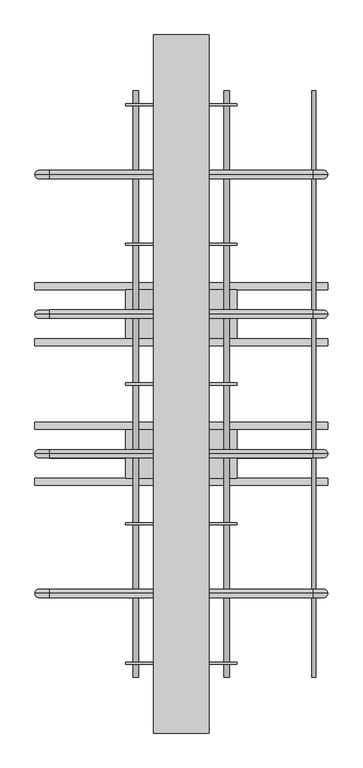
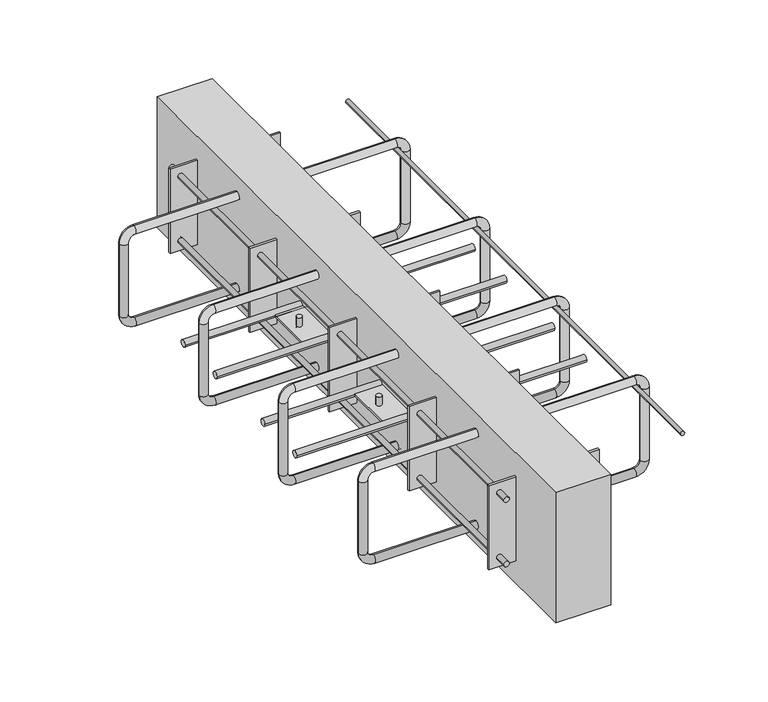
"""IFC4 building model written with IfcOpenShell, lengths in millimetres: fastener geometry, ACINOXplus_Typenreihe_Ux-Ox : OD+ S2."""

from ifc_helpers import new_model, si_unit, point, frame, frame_2d, origin, place, context, project, spatial, polyline, circle_curve, ellipse_curve, trimmed, segment, composite_curve, outline, extrude, source, transform, mapped, element, save
from ifc_brep_helpers import cylinder_surface, revolved_surface, advanced_brep


def fastener_fe60d42a(model_context):
    return source(origin(), model_context, "Body", "SolidModel", [
        advanced_brep(
        [(189.0, 100.0, -35.5), (189.0, 100.0, -23.5), (-189.0, 100.0, -23.5), (-189.0, 100.0, -35.5), (-198.0, 100.0, -44.5), (-210.0, 100.0, -44.5), (-210.0, 100.0, -155.5), (-198.0, 100.0, -155.5), (-189.0, 100.0, -164.5), (-189.0, 100.0, -176.5), (189.0, 100.0, -176.5), (189.0, 100.0, -164.5), (198.0, 100.0, -155.5), (210.0, 100.0, -155.5), (210.0, 100.0, -44.5), (198.0, 100.0, -44.5)],
        [
            (0, 1, circle_curve(frame((189.0, 100.0, -29.5), z_axis=(-1.0, 0.0, 0.0), x_axis=(0.0, 0.0, -1.0)), 6.0)),
            (1, 2),
            (2, 3, circle_curve(frame((-189.0, 100.0, -29.5), z_axis=(1.0, 0.0, 0.0), x_axis=(0.0, 0.0, -1.0)), 6.0)),
            (3, 0),
            (1, 0, circle_curve(frame((189.0, 100.0, -29.5), z_axis=(-1.0, 0.0, 0.0), x_axis=(0.0, 0.0, -1.0)), 6.0)),
            (3, 2, circle_curve(frame((-189.0, 100.0, -29.5), z_axis=(1.0, 0.0, 0.0), x_axis=(0.0, 0.0, -1.0)), 6.0)),
            (4, 3, circle_curve(frame((-189.0, 100.0, -44.5), z_axis=(0.0, 1.0, 0.0), x_axis=(0.0, 0.0, 1.0)), 9.0)),
            (2, 5, circle_curve(frame((-189.0, 100.0, -44.5), z_axis=(0.0, -1.0, 0.0), x_axis=(0.0, 0.0, 1.0)), 21.0)),
            (5, 4, circle_curve(frame((-204.0, 100.0, -44.5), z_axis=(0.0, 0.0, 1.0), x_axis=(1.0, 0.0, 0.0)), 6.0)),
            (4, 5, circle_curve(frame((-204.0, 100.0, -44.5), z_axis=(0.0, 0.0, 1.0), x_axis=(1.0, 0.0, 0.0)), 6.0)),
            (5, 6),
            (6, 7, circle_curve(frame((-204.0, 100.0, -155.5), z_axis=(0.0, 0.0, 1.0), x_axis=(1.0, 0.0, 0.0)), 6.0)),
            (7, 4),
            (7, 6, circle_curve(frame((-204.0, 100.0, -155.5), z_axis=(0.0, 0.0, 1.0), x_axis=(1.0, 0.0, 0.0)), 6.0)),
            (8, 7, circle_curve(frame((-189.0, 100.0, -155.5), z_axis=(0.0, 1.0, 0.0), x_axis=(-1.0, 0.0, 0.0)), 9.0)),
            (6, 9, circle_curve(frame((-189.0, 100.0, -155.5), z_axis=(0.0, -1.0, 0.0), x_axis=(-1.0, 0.0, 0.0)), 21.0)),
            (9, 8, circle_curve(frame((-189.0, 100.0, -170.5), z_axis=(-1.0, 0.0, 0.0), x_axis=(0.0, 0.0, 1.0)), 6.0)),
            (8, 9, circle_curve(frame((-189.0, 100.0, -170.5), z_axis=(-1.0, 0.0, 0.0), x_axis=(0.0, 0.0, 1.0)), 6.0)),
            (9, 10),
            (10, 11, circle_curve(frame((189.0, 100.0, -170.5), z_axis=(-1.0, 0.0, 0.0), x_axis=(0.0, 0.0, 1.0)), 6.0)),
            (11, 8),
            (11, 10, circle_curve(frame((189.0, 100.0, -170.5), z_axis=(-1.0, 0.0, 0.0), x_axis=(0.0, 0.0, 1.0)), 6.0)),
            (12, 11, circle_curve(frame((189.0, 100.0, -155.5), z_axis=(0.0, 1.0, 0.0), x_axis=(0.0, 0.0, -1.0)), 9.0)),
            (10, 13, circle_curve(frame((189.0, 100.0, -155.5), z_axis=(0.0, -1.0, 0.0), x_axis=(0.0, 0.0, -1.0)), 21.0)),
            (13, 12, circle_curve(frame((204.0, 100.0, -155.5), z_axis=(0.0, 0.0, -1.0), x_axis=(-1.0, 0.0, 0.0)), 6.0)),
            (12, 13, circle_curve(frame((204.0, 100.0, -155.5), z_axis=(0.0, 0.0, -1.0), x_axis=(-1.0, 0.0, 0.0)), 6.0)),
            (13, 14),
            (14, 15, circle_curve(frame((204.0, 100.0, -44.5), z_axis=(0.0, 0.0, -1.0), x_axis=(-1.0, 0.0, 0.0)), 6.0)),
            (15, 12),
            (15, 14, circle_curve(frame((204.0, 100.0, -44.5), z_axis=(0.0, 0.0, -1.0), x_axis=(-1.0, 0.0, 0.0)), 6.0)),
            (0, 15, circle_curve(frame((189.0, 100.0, -44.5), z_axis=(0.0, 1.0, 0.0), x_axis=(1.0, 0.0, 0.0)), 9.0)),
            (14, 1, circle_curve(frame((189.0, 100.0, -44.5), z_axis=(0.0, -1.0, 0.0), x_axis=(1.0, 0.0, 0.0)), 21.0)),
        ],
        [
            cylinder_surface(frame((189.0, 100.0, -29.5), z_axis=(1.0, 0.0, 0.0), x_axis=(0.0, 0.0, -1.0)), 6.0),
            revolved_surface(trimmed(ellipse_curve(frame((-189.0, 100.0, -29.5), z_axis=(1.0, 0.0, 0.0), x_axis=(0.0, 0.0, -1.0)), 6.0, 6.0), [point((-189.0, 100.0, -23.5))], [point((-189.0, 100.0, -35.5))], True, "CARTESIAN"), (-189.0, 100.0, -44.5), (0.0, -1.0, 0.0)),
            revolved_surface(trimmed(ellipse_curve(frame((-189.0, 100.0, -29.5), z_axis=(1.0, 0.0, 0.0), x_axis=(0.0, 0.0, -1.0)), 6.0, 6.0), [point((-189.0, 100.0, -35.5))], [point((-189.0, 100.0, -23.5))], True, "CARTESIAN"), (-189.0, 100.0, -44.5), (0.0, -1.0, 0.0)),
            cylinder_surface(frame((-204.0, 100.0, -44.5), z_axis=(0.0, 0.0, 1.0), x_axis=(1.0, 0.0, 0.0)), 6.0),
            revolved_surface(trimmed(ellipse_curve(frame((-204.0, 100.0, -155.5), z_axis=(0.0, 0.0, 1.0), x_axis=(1.0, 0.0, 0.0)), 6.0, 6.0), [point((-210.0, 100.0, -155.5))], [point((-198.0, 100.0, -155.5))], True, "CARTESIAN"), (-189.0, 100.0, -155.5), (0.0, -1.0, 0.0)),
            revolved_surface(trimmed(ellipse_curve(frame((-204.0, 100.0, -155.5), z_axis=(0.0, 0.0, 1.0), x_axis=(1.0, 0.0, 0.0)), 6.0, 6.0), [point((-198.0, 100.0, -155.5))], [point((-210.0, 100.0, -155.5))], True, "CARTESIAN"), (-189.0, 100.0, -155.5), (0.0, -1.0, 0.0)),
            cylinder_surface(frame((-189.0, 100.0, -170.5), z_axis=(-1.0, 0.0, 0.0), x_axis=(0.0, 0.0, 1.0)), 6.0),
            revolved_surface(trimmed(ellipse_curve(frame((189.0, 100.0, -170.5), z_axis=(-1.0, 0.0, 0.0), x_axis=(0.0, 0.0, 1.0)), 6.0, 6.0), [point((189.0, 100.0, -176.5))], [point((189.0, 100.0, -164.5))], True, "CARTESIAN"), (189.0, 100.0, -155.5), (0.0, -1.0, 0.0)),
            revolved_surface(trimmed(ellipse_curve(frame((189.0, 100.0, -170.5), z_axis=(-1.0, 0.0, 0.0), x_axis=(0.0, 0.0, 1.0)), 6.0, 6.0), [point((189.0, 100.0, -164.5))], [point((189.0, 100.0, -176.5))], True, "CARTESIAN"), (189.0, 100.0, -155.5), (0.0, -1.0, 0.0)),
            cylinder_surface(frame((204.0, 100.0, -155.5), z_axis=(0.0, 0.0, -1.0), x_axis=(-1.0, 0.0, 0.0)), 6.0),
            revolved_surface(trimmed(ellipse_curve(frame((204.0, 100.0, -44.5), z_axis=(0.0, 0.0, -1.0), x_axis=(-1.0, 0.0, 0.0)), 6.0, 6.0), [point((210.0, 100.0, -44.5))], [point((198.0, 100.0, -44.5))], True, "CARTESIAN"), (189.0, 100.0, -44.5), (0.0, -1.0, 0.0)),
            revolved_surface(trimmed(ellipse_curve(frame((204.0, 100.0, -44.5), z_axis=(0.0, 0.0, -1.0), x_axis=(-1.0, 0.0, 0.0)), 6.0, 6.0), [point((198.0, 100.0, -44.5))], [point((210.0, 100.0, -44.5))], True, "CARTESIAN"), (189.0, 100.0, -44.5), (0.0, -1.0, 0.0)),
        ],
        [
            (0, [[1, 2, 3, 4]]),
            (0, [[5, -4, 6, -2]]),
            (1, [[7, -3, 8, 9]]),
            (2, [[-8, -6, -7, 10]]),
            (3, [[-9, 11, 12, 13]]),
            (3, [[-10, -13, 14, -11]]),
            (4, [[15, -12, 16, 17]]),
            (5, [[-16, -14, -15, 18]]),
            (6, [[-17, 19, 20, 21]]),
            (6, [[-18, -21, 22, -19]]),
            (7, [[23, -20, 24, 25]]),
            (8, [[-24, -22, -23, 26]]),
            (9, [[-25, 27, 28, 29]]),
            (9, [[-26, -29, 30, -27]]),
            (10, [[31, -28, 32, -1]]),
            (11, [[-32, -30, -31, -5]]),
        ],
    ),
        advanced_brep(
        [(189.0, -100.0, -35.5), (189.0, -100.0, -23.5), (-189.0, -100.0, -23.5), (-189.0, -100.0, -35.5), (-198.0, -100.0, -44.5), (-210.0, -100.0, -44.5), (-210.0, -100.0, -155.5), (-198.0, -100.0, -155.5), (-189.0, -100.0, -164.5), (-189.0, -100.0, -176.5), (189.0, -100.0, -176.5), (189.0, -100.0, -164.5), (198.0, -100.0, -155.5), (210.0, -100.0, -155.5), (210.0, -100.0, -44.5), (198.0, -100.0, -44.5)],
        [
            (0, 1, circle_curve(frame((189.0, -100.0, -29.5), z_axis=(-1.0, 0.0, 0.0), x_axis=(0.0, 0.0, -1.0)), 6.0)),
            (1, 2),
            (2, 3, circle_curve(frame((-189.0, -100.0, -29.5), z_axis=(1.0, 0.0, 0.0), x_axis=(0.0, 0.0, -1.0)), 6.0)),
            (3, 0),
            (1, 0, circle_curve(frame((189.0, -100.0, -29.5), z_axis=(-1.0, 0.0, 0.0), x_axis=(0.0, 0.0, -1.0)), 6.0)),
            (3, 2, circle_curve(frame((-189.0, -100.0, -29.5), z_axis=(1.0, 0.0, 0.0), x_axis=(0.0, 0.0, -1.0)), 6.0)),
            (4, 3, circle_curve(frame((-189.0, -100.0, -44.5), z_axis=(0.0, 1.0, 0.0), x_axis=(0.0, 0.0, 1.0)), 9.0)),
            (2, 5, circle_curve(frame((-189.0, -100.0, -44.5), z_axis=(0.0, -1.0, 0.0), x_axis=(0.0, 0.0, 1.0)), 21.0)),
            (5, 4, circle_curve(frame((-204.0, -100.0, -44.5), z_axis=(0.0, 0.0, 1.0), x_axis=(1.0, 0.0, 0.0)), 6.0)),
            (4, 5, circle_curve(frame((-204.0, -100.0, -44.5), z_axis=(0.0, 0.0, 1.0), x_axis=(1.0, 0.0, 0.0)), 6.0)),
            (5, 6),
            (6, 7, circle_curve(frame((-204.0, -100.0, -155.5), z_axis=(0.0, 0.0, 1.0), x_axis=(1.0, 0.0, 0.0)), 6.0)),
            (7, 4),
            (7, 6, circle_curve(frame((-204.0, -100.0, -155.5), z_axis=(0.0, 0.0, 1.0), x_axis=(1.0, 0.0, 0.0)), 6.0)),
            (8, 7, circle_curve(frame((-189.0, -100.0, -155.5), z_axis=(0.0, 1.0, 0.0), x_axis=(-1.0, 0.0, 0.0)), 9.0)),
            (6, 9, circle_curve(frame((-189.0, -100.0, -155.5), z_axis=(0.0, -1.0, 0.0), x_axis=(-1.0, 0.0, 0.0)), 21.0)),
            (9, 8, circle_curve(frame((-189.0, -100.0, -170.5), z_axis=(-1.0, 0.0, 0.0), x_axis=(0.0, 0.0, 1.0)), 6.0)),
            (8, 9, circle_curve(frame((-189.0, -100.0, -170.5), z_axis=(-1.0, 0.0, 0.0), x_axis=(0.0, 0.0, 1.0)), 6.0)),
            (9, 10),
            (10, 11, circle_curve(frame((189.0, -100.0, -170.5), z_axis=(-1.0, 0.0, 0.0), x_axis=(0.0, 0.0, 1.0)), 6.0)),
            (11, 8),
            (11, 10, circle_curve(frame((189.0, -100.0, -170.5), z_axis=(-1.0, 0.0, 0.0), x_axis=(0.0, 0.0, 1.0)), 6.0)),
            (12, 11, circle_curve(frame((189.0, -100.0, -155.5), z_axis=(0.0, 1.0, 0.0), x_axis=(0.0, 0.0, -1.0)), 9.0)),
            (10, 13, circle_curve(frame((189.0, -100.0, -155.5), z_axis=(0.0, -1.0, 0.0), x_axis=(0.0, 0.0, -1.0)), 21.0)),
            (13, 12, circle_curve(frame((204.0, -100.0, -155.5), z_axis=(0.0, 0.0, -1.0), x_axis=(-1.0, 0.0, 0.0)), 6.0)),
            (12, 13, circle_curve(frame((204.0, -100.0, -155.5), z_axis=(0.0, 0.0, -1.0), x_axis=(-1.0, 0.0, 0.0)), 6.0)),
            (13, 14),
            (14, 15, circle_curve(frame((204.0, -100.0, -44.5), z_axis=(0.0, 0.0, -1.0), x_axis=(-1.0, 0.0, 0.0)), 6.0)),
            (15, 12),
            (15, 14, circle_curve(frame((204.0, -100.0, -44.5), z_axis=(0.0, 0.0, -1.0), x_axis=(-1.0, 0.0, 0.0)), 6.0)),
            (0, 15, circle_curve(frame((189.0, -100.0, -44.5), z_axis=(0.0, 1.0, 0.0), x_axis=(1.0, 0.0, 0.0)), 9.0)),
            (14, 1, circle_curve(frame((189.0, -100.0, -44.5), z_axis=(0.0, -1.0, 0.0), x_axis=(1.0, 0.0, 0.0)), 21.0)),
        ],
        [
            cylinder_surface(frame((189.0, -100.0, -29.5), z_axis=(1.0, 0.0, 0.0), x_axis=(0.0, 0.0, -1.0)), 6.0),
            revolved_surface(trimmed(ellipse_curve(frame((-189.0, -100.0, -29.5), z_axis=(1.0, 0.0, 0.0), x_axis=(0.0, 0.0, -1.0)), 6.0, 6.0), [point((-189.0, -100.0, -23.5))], [point((-189.0, -100.0, -35.5))], True, "CARTESIAN"), (-189.0, -100.0, -44.5), (0.0, -1.0, 0.0)),
            revolved_surface(trimmed(ellipse_curve(frame((-189.0, -100.0, -29.5), z_axis=(1.0, 0.0, 0.0), x_axis=(0.0, 0.0, -1.0)), 6.0, 6.0), [point((-189.0, -100.0, -35.5))], [point((-189.0, -100.0, -23.5))], True, "CARTESIAN"), (-189.0, -100.0, -44.5), (0.0, -1.0, 0.0)),
            cylinder_surface(frame((-204.0, -100.0, -44.5), z_axis=(0.0, 0.0, 1.0), x_axis=(1.0, 0.0, 0.0)), 6.0),
            revolved_surface(trimmed(ellipse_curve(frame((-204.0, -100.0, -155.5), z_axis=(0.0, 0.0, 1.0), x_axis=(1.0, 0.0, 0.0)), 6.0, 6.0), [point((-210.0, -100.0, -155.5))], [point((-198.0, -100.0, -155.5))], True, "CARTESIAN"), (-189.0, -100.0, -155.5), (0.0, -1.0, 0.0)),
            revolved_surface(trimmed(ellipse_curve(frame((-204.0, -100.0, -155.5), z_axis=(0.0, 0.0, 1.0), x_axis=(1.0, 0.0, 0.0)), 6.0, 6.0), [point((-198.0, -100.0, -155.5))], [point((-210.0, -100.0, -155.5))], True, "CARTESIAN"), (-189.0, -100.0, -155.5), (0.0, -1.0, 0.0)),
            cylinder_surface(frame((-189.0, -100.0, -170.5), z_axis=(-1.0, 0.0, 0.0), x_axis=(0.0, 0.0, 1.0)), 6.0),
            revolved_surface(trimmed(ellipse_curve(frame((189.0, -100.0, -170.5), z_axis=(-1.0, 0.0, 0.0), x_axis=(0.0, 0.0, 1.0)), 6.0, 6.0), [point((189.0, -100.0, -176.5))], [point((189.0, -100.0, -164.5))], True, "CARTESIAN"), (189.0, -100.0, -155.5), (0.0, -1.0, 0.0)),
            revolved_surface(trimmed(ellipse_curve(frame((189.0, -100.0, -170.5), z_axis=(-1.0, 0.0, 0.0), x_axis=(0.0, 0.0, 1.0)), 6.0, 6.0), [point((189.0, -100.0, -164.5))], [point((189.0, -100.0, -176.5))], True, "CARTESIAN"), (189.0, -100.0, -155.5), (0.0, -1.0, 0.0)),
            cylinder_surface(frame((204.0, -100.0, -155.5), z_axis=(0.0, 0.0, -1.0), x_axis=(-1.0, 0.0, 0.0)), 6.0),
            revolved_surface(trimmed(ellipse_curve(frame((204.0, -100.0, -44.5), z_axis=(0.0, 0.0, -1.0), x_axis=(-1.0, 0.0, 0.0)), 6.0, 6.0), [point((210.0, -100.0, -44.5))], [point((198.0, -100.0, -44.5))], True, "CARTESIAN"), (189.0, -100.0, -44.5), (0.0, -1.0, 0.0)),
            revolved_surface(trimmed(ellipse_curve(frame((204.0, -100.0, -44.5), z_axis=(0.0, 0.0, -1.0), x_axis=(-1.0, 0.0, 0.0)), 6.0, 6.0), [point((198.0, -100.0, -44.5))], [point((210.0, -100.0, -44.5))], True, "CARTESIAN"), (189.0, -100.0, -44.5), (0.0, -1.0, 0.0)),
        ],
        [
            (0, [[1, 2, 3, 4]]),
            (0, [[5, -4, 6, -2]]),
            (1, [[7, -3, 8, 9]]),
            (2, [[-8, -6, -7, 10]]),
            (3, [[-9, 11, 12, 13]]),
            (3, [[-10, -13, 14, -11]]),
            (4, [[15, -12, 16, 17]]),
            (5, [[-16, -14, -15, 18]]),
            (6, [[-17, 19, 20, 21]]),
            (6, [[-18, -21, 22, -19]]),
            (7, [[23, -20, 24, 25]]),
            (8, [[-24, -22, -23, 26]]),
            (9, [[-25, 27, 28, 29]]),
            (9, [[-26, -29, 30, -27]]),
            (10, [[31, -28, 32, -1]]),
            (11, [[-32, -30, -31, -5]]),
        ],
    ),
        advanced_brep(
        [(189.0, 300.0, -35.5), (189.0, 300.0, -23.5), (-189.0, 300.0, -23.5), (-189.0, 300.0, -35.5), (-198.0, 300.0, -44.5), (-210.0, 300.0, -44.5), (-210.0, 300.0, -155.5), (-198.0, 300.0, -155.5), (-189.0, 300.0, -164.5), (-189.0, 300.0, -176.5), (189.0, 300.0, -176.5), (189.0, 300.0, -164.5), (198.0, 300.0, -155.5), (210.0, 300.0, -155.5), (210.0, 300.0, -44.5), (198.0, 300.0, -44.5)],
        [
            (0, 1, circle_curve(frame((189.0, 300.0, -29.5), z_axis=(-1.0, 0.0, 0.0), x_axis=(0.0, 0.0, -1.0)), 6.0)),
            (1, 2),
            (2, 3, circle_curve(frame((-189.0, 300.0, -29.5), z_axis=(1.0, 0.0, 0.0), x_axis=(0.0, 0.0, -1.0)), 6.0)),
            (3, 0),
            (1, 0, circle_curve(frame((189.0, 300.0, -29.5), z_axis=(-1.0, 0.0, 0.0), x_axis=(0.0, 0.0, -1.0)), 6.0)),
            (3, 2, circle_curve(frame((-189.0, 300.0, -29.5), z_axis=(1.0, 0.0, 0.0), x_axis=(0.0, 0.0, -1.0)), 6.0)),
            (4, 3, circle_curve(frame((-189.0, 300.0, -44.5), z_axis=(0.0, 1.0, 0.0), x_axis=(0.0, 0.0, 1.0)), 9.0)),
            (2, 5, circle_curve(frame((-189.0, 300.0, -44.5), z_axis=(0.0, -1.0, 0.0), x_axis=(0.0, 0.0, 1.0)), 21.0)),
            (5, 4, circle_curve(frame((-204.0, 300.0, -44.5), z_axis=(0.0, 0.0, 1.0), x_axis=(1.0, 0.0, 0.0)), 6.0)),
            (4, 5, circle_curve(frame((-204.0, 300.0, -44.5), z_axis=(0.0, 0.0, 1.0), x_axis=(1.0, 0.0, 0.0)), 6.0)),
            (5, 6),
            (6, 7, circle_curve(frame((-204.0, 300.0, -155.5), z_axis=(0.0, 0.0, 1.0), x_axis=(1.0, 0.0, 0.0)), 6.0)),
            (7, 4),
            (7, 6, circle_curve(frame((-204.0, 300.0, -155.5), z_axis=(0.0, 0.0, 1.0), x_axis=(1.0, 0.0, 0.0)), 6.0)),
            (8, 7, circle_curve(frame((-189.0, 300.0, -155.5), z_axis=(0.0, 1.0, 0.0), x_axis=(-1.0, 0.0, 0.0)), 9.0)),
            (6, 9, circle_curve(frame((-189.0, 300.0, -155.5), z_axis=(0.0, -1.0, 0.0), x_axis=(-1.0, 0.0, 0.0)), 21.0)),
            (9, 8, circle_curve(frame((-189.0, 300.0, -170.5), z_axis=(-1.0, 0.0, 0.0), x_axis=(0.0, 0.0, 1.0)), 6.0)),
            (8, 9, circle_curve(frame((-189.0, 300.0, -170.5), z_axis=(-1.0, 0.0, 0.0), x_axis=(0.0, 0.0, 1.0)), 6.0)),
            (9, 10),
            (10, 11, circle_curve(frame((189.0, 300.0, -170.5), z_axis=(-1.0, 0.0, 0.0), x_axis=(0.0, 0.0, 1.0)), 6.0)),
            (11, 8),
            (11, 10, circle_curve(frame((189.0, 300.0, -170.5), z_axis=(-1.0, 0.0, 0.0), x_axis=(0.0, 0.0, 1.0)), 6.0)),
            (12, 11, circle_curve(frame((189.0, 300.0, -155.5), z_axis=(0.0, 1.0, 0.0), x_axis=(0.0, 0.0, -1.0)), 9.0)),
            (10, 13, circle_curve(frame((189.0, 300.0, -155.5), z_axis=(0.0, -1.0, 0.0), x_axis=(0.0, 0.0, -1.0)), 21.0)),
            (13, 12, circle_curve(frame((204.0, 300.0, -155.5), z_axis=(0.0, 0.0, -1.0), x_axis=(-1.0, 0.0, 0.0)), 6.0)),
            (12, 13, circle_curve(frame((204.0, 300.0, -155.5), z_axis=(0.0, 0.0, -1.0), x_axis=(-1.0, 0.0, 0.0)), 6.0)),
            (13, 14),
            (14, 15, circle_curve(frame((204.0, 300.0, -44.5), z_axis=(0.0, 0.0, -1.0), x_axis=(-1.0, 0.0, 0.0)), 6.0)),
            (15, 12),
            (15, 14, circle_curve(frame((204.0, 300.0, -44.5), z_axis=(0.0, 0.0, -1.0), x_axis=(-1.0, 0.0, 0.0)), 6.0)),
            (0, 15, circle_curve(frame((189.0, 300.0, -44.5), z_axis=(0.0, 1.0, 0.0), x_axis=(1.0, 0.0, 0.0)), 9.0)),
            (14, 1, circle_curve(frame((189.0, 300.0, -44.5), z_axis=(0.0, -1.0, 0.0), x_axis=(1.0, 0.0, 0.0)), 21.0)),
        ],
        [
            cylinder_surface(frame((189.0, 300.0, -29.5), z_axis=(1.0, 0.0, 0.0), x_axis=(0.0, 0.0, -1.0)), 6.0),
            revolved_surface(trimmed(ellipse_curve(frame((-189.0, 300.0, -29.5), z_axis=(1.0, 0.0, 0.0), x_axis=(0.0, 0.0, -1.0)), 6.0, 6.0), [point((-189.0, 300.0, -23.5))], [point((-189.0, 300.0, -35.5))], True, "CARTESIAN"), (-189.0, 300.0, -44.5), (0.0, -1.0, 0.0)),
            revolved_surface(trimmed(ellipse_curve(frame((-189.0, 300.0, -29.5), z_axis=(1.0, 0.0, 0.0), x_axis=(0.0, 0.0, -1.0)), 6.0, 6.0), [point((-189.0, 300.0, -35.5))], [point((-189.0, 300.0, -23.5))], True, "CARTESIAN"), (-189.0, 300.0, -44.5), (0.0, -1.0, 0.0)),
            cylinder_surface(frame((-204.0, 300.0, -44.5), z_axis=(0.0, 0.0, 1.0), x_axis=(1.0, 0.0, 0.0)), 6.0),
            revolved_surface(trimmed(ellipse_curve(frame((-204.0, 300.0, -155.5), z_axis=(0.0, 0.0, 1.0), x_axis=(1.0, 0.0, 0.0)), 6.0, 6.0), [point((-210.0, 300.0, -155.5))], [point((-198.0, 300.0, -155.5))], True, "CARTESIAN"), (-189.0, 300.0, -155.5), (0.0, -1.0, 0.0)),
            revolved_surface(trimmed(ellipse_curve(frame((-204.0, 300.0, -155.5), z_axis=(0.0, 0.0, 1.0), x_axis=(1.0, 0.0, 0.0)), 6.0, 6.0), [point((-198.0, 300.0, -155.5))], [point((-210.0, 300.0, -155.5))], True, "CARTESIAN"), (-189.0, 300.0, -155.5), (0.0, -1.0, 0.0)),
            cylinder_surface(frame((-189.0, 300.0, -170.5), z_axis=(-1.0, 0.0, 0.0), x_axis=(0.0, 0.0, 1.0)), 6.0),
            revolved_surface(trimmed(ellipse_curve(frame((189.0, 300.0, -170.5), z_axis=(-1.0, 0.0, 0.0), x_axis=(0.0, 0.0, 1.0)), 6.0, 6.0), [point((189.0, 300.0, -176.5))], [point((189.0, 300.0, -164.5))], True, "CARTESIAN"), (189.0, 300.0, -155.5), (0.0, -1.0, 0.0)),
            revolved_surface(trimmed(ellipse_curve(frame((189.0, 300.0, -170.5), z_axis=(-1.0, 0.0, 0.0), x_axis=(0.0, 0.0, 1.0)), 6.0, 6.0), [point((189.0, 300.0, -164.5))], [point((189.0, 300.0, -176.5))], True, "CARTESIAN"), (189.0, 300.0, -155.5), (0.0, -1.0, 0.0)),
            cylinder_surface(frame((204.0, 300.0, -155.5), z_axis=(0.0, 0.0, -1.0), x_axis=(-1.0, 0.0, 0.0)), 6.0),
            revolved_surface(trimmed(ellipse_curve(frame((204.0, 300.0, -44.5), z_axis=(0.0, 0.0, -1.0), x_axis=(-1.0, 0.0, 0.0)), 6.0, 6.0), [point((210.0, 300.0, -44.5))], [point((198.0, 300.0, -44.5))], True, "CARTESIAN"), (189.0, 300.0, -44.5), (0.0, -1.0, 0.0)),
            revolved_surface(trimmed(ellipse_curve(frame((204.0, 300.0, -44.5), z_axis=(0.0, 0.0, -1.0), x_axis=(-1.0, 0.0, 0.0)), 6.0, 6.0), [point((198.0, 300.0, -44.5))], [point((210.0, 300.0, -44.5))], True, "CARTESIAN"), (189.0, 300.0, -44.5), (0.0, -1.0, 0.0)),
        ],
        [
            (0, [[1, 2, 3, 4]]),
            (0, [[5, -4, 6, -2]]),
            (1, [[7, -3, 8, 9]]),
            (2, [[-8, -6, -7, 10]]),
            (3, [[-9, 11, 12, 13]]),
            (3, [[-10, -13, 14, -11]]),
            (4, [[15, -12, 16, 17]]),
            (5, [[-16, -14, -15, 18]]),
            (6, [[-17, 19, 20, 21]]),
            (6, [[-18, -21, 22, -19]]),
            (7, [[23, -20, 24, 25]]),
            (8, [[-24, -22, -23, 26]]),
            (9, [[-25, 27, 28, 29]]),
            (9, [[-26, -29, 30, -27]]),
            (10, [[31, -28, 32, -1]]),
            (11, [[-32, -30, -31, -5]]),
        ],
    ),
        advanced_brep(
        [(189.0, -300.0, -35.5), (189.0, -300.0, -23.5), (-189.0, -300.0, -23.5), (-189.0, -300.0, -35.5), (-198.0, -300.0, -44.5), (-210.0, -300.0, -44.5), (-210.0, -300.0, -155.5), (-198.0, -300.0, -155.5), (-189.0, -300.0, -164.5), (-189.0, -300.0, -176.5), (189.0, -300.0, -176.5), (189.0, -300.0, -164.5), (198.0, -300.0, -155.5), (210.0, -300.0, -155.5), (210.0, -300.0, -44.5), (198.0, -300.0, -44.5)],
        [
            (0, 1, circle_curve(frame((189.0, -300.0, -29.5), z_axis=(-1.0, 0.0, 0.0), x_axis=(0.0, 0.0, -1.0)), 6.0)),
            (1, 2),
            (2, 3, circle_curve(frame((-189.0, -300.0, -29.5), z_axis=(1.0, 0.0, 0.0), x_axis=(0.0, 0.0, -1.0)), 6.0)),
            (3, 0),
            (1, 0, circle_curve(frame((189.0, -300.0, -29.5), z_axis=(-1.0, 0.0, 0.0), x_axis=(0.0, 0.0, -1.0)), 6.0)),
            (3, 2, circle_curve(frame((-189.0, -300.0, -29.5), z_axis=(1.0, 0.0, 0.0), x_axis=(0.0, 0.0, -1.0)), 6.0)),
            (4, 3, circle_curve(frame((-189.0, -300.0, -44.5), z_axis=(0.0, 1.0, 0.0), x_axis=(0.0, 0.0, 1.0)), 9.0)),
            (2, 5, circle_curve(frame((-189.0, -300.0, -44.5), z_axis=(0.0, -1.0, 0.0), x_axis=(0.0, 0.0, 1.0)), 21.0)),
            (5, 4, circle_curve(frame((-204.0, -300.0, -44.5), z_axis=(0.0, 0.0, 1.0), x_axis=(1.0, 0.0, 0.0)), 6.0)),
            (4, 5, circle_curve(frame((-204.0, -300.0, -44.5), z_axis=(0.0, 0.0, 1.0), x_axis=(1.0, 0.0, 0.0)), 6.0)),
            (5, 6),
            (6, 7, circle_curve(frame((-204.0, -300.0, -155.5), z_axis=(0.0, 0.0, 1.0), x_axis=(1.0, 0.0, 0.0)), 6.0)),
            (7, 4),
            (7, 6, circle_curve(frame((-204.0, -300.0, -155.5), z_axis=(0.0, 0.0, 1.0), x_axis=(1.0, 0.0, 0.0)), 6.0)),
            (8, 7, circle_curve(frame((-189.0, -300.0, -155.5), z_axis=(0.0, 1.0, 0.0), x_axis=(-1.0, 0.0, 0.0)), 9.0)),
            (6, 9, circle_curve(frame((-189.0, -300.0, -155.5), z_axis=(0.0, -1.0, 0.0), x_axis=(-1.0, 0.0, 0.0)), 21.0)),
            (9, 8, circle_curve(frame((-189.0, -300.0, -170.5), z_axis=(-1.0, 0.0, 0.0), x_axis=(0.0, 0.0, 1.0)), 6.0)),
            (8, 9, circle_curve(frame((-189.0, -300.0, -170.5), z_axis=(-1.0, 0.0, 0.0), x_axis=(0.0, 0.0, 1.0)), 6.0)),
            (9, 10),
            (10, 11, circle_curve(frame((189.0, -300.0, -170.5), z_axis=(-1.0, 0.0, 0.0), x_axis=(0.0, 0.0, 1.0)), 6.0)),
            (11, 8),
            (11, 10, circle_curve(frame((189.0, -300.0, -170.5), z_axis=(-1.0, 0.0, 0.0), x_axis=(0.0, 0.0, 1.0)), 6.0)),
            (12, 11, circle_curve(frame((189.0, -300.0, -155.5), z_axis=(0.0, 1.0, 0.0), x_axis=(0.0, 0.0, -1.0)), 9.0)),
            (10, 13, circle_curve(frame((189.0, -300.0, -155.5), z_axis=(0.0, -1.0, 0.0), x_axis=(0.0, 0.0, -1.0)), 21.0)),
            (13, 12, circle_curve(frame((204.0, -300.0, -155.5), z_axis=(0.0, 0.0, -1.0), x_axis=(-1.0, 0.0, 0.0)), 6.0)),
            (12, 13, circle_curve(frame((204.0, -300.0, -155.5), z_axis=(0.0, 0.0, -1.0), x_axis=(-1.0, 0.0, 0.0)), 6.0)),
            (13, 14),
            (14, 15, circle_curve(frame((204.0, -300.0, -44.5), z_axis=(0.0, 0.0, -1.0), x_axis=(-1.0, 0.0, 0.0)), 6.0)),
            (15, 12),
            (15, 14, circle_curve(frame((204.0, -300.0, -44.5), z_axis=(0.0, 0.0, -1.0), x_axis=(-1.0, 0.0, 0.0)), 6.0)),
            (0, 15, circle_curve(frame((189.0, -300.0, -44.5), z_axis=(0.0, 1.0, 0.0), x_axis=(1.0, 0.0, 0.0)), 9.0)),
            (14, 1, circle_curve(frame((189.0, -300.0, -44.5), z_axis=(0.0, -1.0, 0.0), x_axis=(1.0, 0.0, 0.0)), 21.0)),
        ],
        [
            cylinder_surface(frame((189.0, -300.0, -29.5), z_axis=(1.0, 0.0, 0.0), x_axis=(0.0, 0.0, -1.0)), 6.0),
            revolved_surface(trimmed(ellipse_curve(frame((-189.0, -300.0, -29.5), z_axis=(1.0, 0.0, 0.0), x_axis=(0.0, 0.0, -1.0)), 6.0, 6.0), [point((-189.0, -300.0, -23.5))], [point((-189.0, -300.0, -35.5))], True, "CARTESIAN"), (-189.0, -300.0, -44.5), (0.0, -1.0, 0.0)),
            revolved_surface(trimmed(ellipse_curve(frame((-189.0, -300.0, -29.5), z_axis=(1.0, 0.0, 0.0), x_axis=(0.0, 0.0, -1.0)), 6.0, 6.0), [point((-189.0, -300.0, -35.5))], [point((-189.0, -300.0, -23.5))], True, "CARTESIAN"), (-189.0, -300.0, -44.5), (0.0, -1.0, 0.0)),
            cylinder_surface(frame((-204.0, -300.0, -44.5), z_axis=(0.0, 0.0, 1.0), x_axis=(1.0, 0.0, 0.0)), 6.0),
            revolved_surface(trimmed(ellipse_curve(frame((-204.0, -300.0, -155.5), z_axis=(0.0, 0.0, 1.0), x_axis=(1.0, 0.0, 0.0)), 6.0, 6.0), [point((-210.0, -300.0, -155.5))], [point((-198.0, -300.0, -155.5))], True, "CARTESIAN"), (-189.0, -300.0, -155.5), (0.0, -1.0, 0.0)),
            revolved_surface(trimmed(ellipse_curve(frame((-204.0, -300.0, -155.5), z_axis=(0.0, 0.0, 1.0), x_axis=(1.0, 0.0, 0.0)), 6.0, 6.0), [point((-198.0, -300.0, -155.5))], [point((-210.0, -300.0, -155.5))], True, "CARTESIAN"), (-189.0, -300.0, -155.5), (0.0, -1.0, 0.0)),
            cylinder_surface(frame((-189.0, -300.0, -170.5), z_axis=(-1.0, 0.0, 0.0), x_axis=(0.0, 0.0, 1.0)), 6.0),
            revolved_surface(trimmed(ellipse_curve(frame((189.0, -300.0, -170.5), z_axis=(-1.0, 0.0, 0.0), x_axis=(0.0, 0.0, 1.0)), 6.0, 6.0), [point((189.0, -300.0, -176.5))], [point((189.0, -300.0, -164.5))], True, "CARTESIAN"), (189.0, -300.0, -155.5), (0.0, -1.0, 0.0)),
            revolved_surface(trimmed(ellipse_curve(frame((189.0, -300.0, -170.5), z_axis=(-1.0, 0.0, 0.0), x_axis=(0.0, 0.0, 1.0)), 6.0, 6.0), [point((189.0, -300.0, -164.5))], [point((189.0, -300.0, -176.5))], True, "CARTESIAN"), (189.0, -300.0, -155.5), (0.0, -1.0, 0.0)),
            cylinder_surface(frame((204.0, -300.0, -155.5), z_axis=(0.0, 0.0, -1.0), x_axis=(-1.0, 0.0, 0.0)), 6.0),
            revolved_surface(trimmed(ellipse_curve(frame((204.0, -300.0, -44.5), z_axis=(0.0, 0.0, -1.0), x_axis=(-1.0, 0.0, 0.0)), 6.0, 6.0), [point((210.0, -300.0, -44.5))], [point((198.0, -300.0, -44.5))], True, "CARTESIAN"), (189.0, -300.0, -44.5), (0.0, -1.0, 0.0)),
            revolved_surface(trimmed(ellipse_curve(frame((204.0, -300.0, -44.5), z_axis=(0.0, 0.0, -1.0), x_axis=(-1.0, 0.0, 0.0)), 6.0, 6.0), [point((198.0, -300.0, -44.5))], [point((210.0, -300.0, -44.5))], True, "CARTESIAN"), (189.0, -300.0, -44.5), (0.0, -1.0, 0.0)),
        ],
        [
            (0, [[1, 2, 3, 4]]),
            (0, [[5, -4, 6, -2]]),
            (1, [[7, -3, 8, 9]]),
            (2, [[-8, -6, -7, 10]]),
            (3, [[-9, 11, 12, 13]]),
            (3, [[-10, -13, 14, -11]]),
            (4, [[15, -12, 16, 17]]),
            (5, [[-16, -14, -15, 18]]),
            (6, [[-17, 19, 20, 21]]),
            (6, [[-18, -21, 22, -19]]),
            (7, [[23, -20, 24, 25]]),
            (8, [[-24, -22, -23, 26]]),
            (9, [[-25, 27, 28, 29]]),
            (9, [[-26, -29, 30, -27]]),
            (10, [[31, -28, 32, -1]]),
            (11, [[-32, -30, -31, -5]]),
        ],
    ),
        extrude(outline(composite_curve([segment(trimmed(circle_curve(frame_2d((-38.5, 190.0)), 3.0), [point((-38.5, 193.0))], [point((-38.5, 187.0))], False, "CARTESIAN"), True, "CONTINUOUS"), segment(trimmed(circle_curve(frame_2d((-38.5, 190.0)), 3.0), [point((-38.5, 187.0))], [point((-38.5, 193.0))], False, "CARTESIAN"), True, "CONTINUOUS")], self_intersect=False)), frame((0.0, -420.0, 0.0), z_axis=(0.0, 1.0, 0.0), x_axis=(0.0, 0.0, 1.0)), (0.0, 0.0, 1.0), 840.0),
        extrude(outline(composite_curve([segment(trimmed(circle_curve(frame_2d((-140.0, -100.0)), 5.0), [point((-145.0, -100.0))], [point((-135.0, -100.0))], False, "CARTESIAN"), True, "CONTINUOUS"), segment(trimmed(circle_curve(frame_2d((-140.0, -100.0)), 5.0), [point((-135.0, -100.0))], [point((-145.0, -100.0))], False, "CARTESIAN"), True, "CONTINUOUS")], self_intersect=False)), frame((-210.0, 0.0, 0.0), z_axis=(1.0, 0.0, 0.0), x_axis=(0.0, 1.0, 0.0)), (0.0, 0.0, 1.0), 420.0),
        extrude(outline(composite_curve([segment(trimmed(circle_curve(frame_2d((-60.0, -100.0)), 5.0), [point((-65.0, -100.0))], [point((-55.0, -100.0))], False, "CARTESIAN"), True, "CONTINUOUS"), segment(trimmed(circle_curve(frame_2d((-60.0, -100.0)), 5.0), [point((-55.0, -100.0))], [point((-65.0, -100.0))], False, "CARTESIAN"), True, "CONTINUOUS")], self_intersect=False)), frame((-210.0, 0.0, 0.0), z_axis=(1.0, 0.0, 0.0), x_axis=(0.0, 1.0, 0.0)), (0.0, 0.0, 1.0), 420.0),
        extrude(outline(composite_curve([segment(trimmed(circle_curve(frame_2d((-65.0, -100.0)), 4.0), [point((-61.0, -100.0))], [point((-69.0, -100.0))], False, "CARTESIAN"), True, "CONTINUOUS"), segment(trimmed(circle_curve(frame_2d((-65.0, -100.0)), 4.0), [point((-69.0, -100.0))], [point((-61.0, -100.0))], False, "CARTESIAN"), True, "CONTINUOUS")], self_intersect=False)), frame((0.0, 0.0, -98.5), z_axis=(0.0, 0.0, 1.0), x_axis=(1.0, 0.0, 0.0)), (0.0, 0.0, 1.0), 13.5),
        extrude(outline(composite_curve([segment(trimmed(circle_curve(frame_2d((65.0, -100.0)), 4.0), [point((69.0, -100.0))], [point((61.0, -100.0))], False, "CARTESIAN"), True, "CONTINUOUS"), segment(trimmed(circle_curve(frame_2d((65.0, -100.0)), 4.0), [point((61.0, -100.0))], [point((69.0, -100.0))], False, "CARTESIAN"), True, "CONTINUOUS")], self_intersect=False)), frame((0.0, 0.0, -98.5), z_axis=(0.0, 0.0, 1.0), x_axis=(1.0, 0.0, 0.0)), (0.0, 0.0, 1.0), 13.5),
        extrude(outline(composite_curve([segment(trimmed(circle_curve(frame_2d((-65.0, -100.0)), 4.0), [point((-69.0, -100.0))], [point((-61.0, -100.0))], False, "CARTESIAN"), True, "CONTINUOUS"), segment(trimmed(circle_curve(frame_2d((-65.0, -100.0)), 4.0), [point((-61.0, -100.0))], [point((-69.0, -100.0))], False, "CARTESIAN"), True, "CONTINUOUS")], self_intersect=False)), frame((0.0, 0.0, -115.0), z_axis=(0.0, 0.0, 1.0), x_axis=(1.0, 0.0, 0.0)), (0.0, 0.0, 1.0), 13.5),
        extrude(outline(composite_curve([segment(trimmed(circle_curve(frame_2d((65.0, -100.0)), 4.0), [point((61.0, -100.0))], [point((69.0, -100.0))], False, "CARTESIAN"), True, "CONTINUOUS"), segment(trimmed(circle_curve(frame_2d((65.0, -100.0)), 4.0), [point((69.0, -100.0))], [point((61.0, -100.0))], False, "CARTESIAN"), True, "CONTINUOUS")], self_intersect=False)), frame((0.0, 0.0, -115.0), z_axis=(0.0, 0.0, 1.0), x_axis=(1.0, 0.0, 0.0)), (0.0, 0.0, 1.0), 13.5),
        extrude(outline(polyline([(80.0, -65.0), (80.0, -135.0), (-80.0, -135.0), (-80.0, -65.0), (80.0, -65.0)])), frame((0.0, 0.0, -101.5), z_axis=(0.0, 0.0, 1.0), x_axis=(1.0, 0.0, 0.0)), (0.0, 0.0, 1.0), 3.0),
        extrude(outline(composite_curve([segment(trimmed(circle_curve(frame_2d((60.0, -100.0)), 5.0), [point((55.0, -100.0))], [point((65.0, -100.0))], False, "CARTESIAN"), True, "CONTINUOUS"), segment(trimmed(circle_curve(frame_2d((60.0, -100.0)), 5.0), [point((65.0, -100.0))], [point((55.0, -100.0))], False, "CARTESIAN"), True, "CONTINUOUS")], self_intersect=False)), frame((-210.0, 0.0, 0.0), z_axis=(1.0, 0.0, 0.0), x_axis=(0.0, 1.0, 0.0)), (0.0, 0.0, 1.0), 420.0),
        extrude(outline(composite_curve([segment(trimmed(circle_curve(frame_2d((140.0, -100.0)), 5.0), [point((135.0, -100.0))], [point((145.0, -100.0))], False, "CARTESIAN"), True, "CONTINUOUS"), segment(trimmed(circle_curve(frame_2d((140.0, -100.0)), 5.0), [point((145.0, -100.0))], [point((135.0, -100.0))], False, "CARTESIAN"), True, "CONTINUOUS")], self_intersect=False)), frame((-210.0, 0.0, 0.0), z_axis=(1.0, 0.0, 0.0), x_axis=(0.0, 1.0, 0.0)), (0.0, 0.0, 1.0), 420.0),
        extrude(outline(composite_curve([segment(trimmed(circle_curve(frame_2d((-65.0, 100.0)), 4.0), [point((-61.0, 100.0))], [point((-69.0, 100.0))], False, "CARTESIAN"), True, "CONTINUOUS"), segment(trimmed(circle_curve(frame_2d((-65.0, 100.0)), 4.0), [point((-69.0, 100.0))], [point((-61.0, 100.0))], False, "CARTESIAN"), True, "CONTINUOUS")], self_intersect=False)), frame((0.0, 0.0, -98.5), z_axis=(0.0, 0.0, 1.0), x_axis=(1.0, 0.0, 0.0)), (0.0, 0.0, 1.0), 13.5),
        extrude(outline(composite_curve([segment(trimmed(circle_curve(frame_2d((65.0, 100.0)), 4.0), [point((69.0, 100.0))], [point((61.0, 100.0))], False, "CARTESIAN"), True, "CONTINUOUS"), segment(trimmed(circle_curve(frame_2d((65.0, 100.0)), 4.0), [point((61.0, 100.0))], [point((69.0, 100.0))], False, "CARTESIAN"), True, "CONTINUOUS")], self_intersect=False)), frame((0.0, 0.0, -98.5), z_axis=(0.0, 0.0, 1.0), x_axis=(1.0, 0.0, 0.0)), (0.0, 0.0, 1.0), 13.5),
        extrude(outline(composite_curve([segment(trimmed(circle_curve(frame_2d((-65.0, 100.0)), 4.0), [point((-69.0, 100.0))], [point((-61.0, 100.0))], False, "CARTESIAN"), True, "CONTINUOUS"), segment(trimmed(circle_curve(frame_2d((-65.0, 100.0)), 4.0), [point((-61.0, 100.0))], [point((-69.0, 100.0))], False, "CARTESIAN"), True, "CONTINUOUS")], self_intersect=False)), frame((0.0, 0.0, -115.0), z_axis=(0.0, 0.0, 1.0), x_axis=(1.0, 0.0, 0.0)), (0.0, 0.0, 1.0), 13.5),
        extrude(outline(composite_curve([segment(trimmed(circle_curve(frame_2d((65.0, 100.0)), 4.0), [point((61.0, 100.0))], [point((69.0, 100.0))], False, "CARTESIAN"), True, "CONTINUOUS"), segment(trimmed(circle_curve(frame_2d((65.0, 100.0)), 4.0), [point((69.0, 100.0))], [point((61.0, 100.0))], False, "CARTESIAN"), True, "CONTINUOUS")], self_intersect=False)), frame((0.0, 0.0, -115.0), z_axis=(0.0, 0.0, 1.0), x_axis=(1.0, 0.0, 0.0)), (0.0, 0.0, 1.0), 13.5),
        extrude(outline(polyline([(80.0, 135.0), (80.0, 65.0), (-80.0, 65.0), (-80.0, 135.0), (80.0, 135.0)])), frame((0.0, 0.0, -101.5), z_axis=(0.0, 0.0, 1.0), x_axis=(1.0, 0.0, 0.0)), (0.0, 0.0, 1.0), 3.0),
        extrude(outline(polyline([(40.0, 500.0), (40.0, -500.0), (-40.0, -500.0), (-40.0, 500.0), (40.0, 500.0)])), frame((0.0, 0.0, -200.0), z_axis=(0.0, 0.0, 1.0), x_axis=(1.0, 0.0, 0.0)), (0.0, 0.0, 1.0), 200.0),
        extrude(outline(polyline([(80.0, -198.5), (80.0, -201.5), (-80.0, -201.5), (-80.0, -198.5), (80.0, -198.5)])), frame((0.0, 0.0, -164.5), z_axis=(0.0, 0.0, 1.0), x_axis=(1.0, 0.0, 0.0)), (0.0, 0.0, 1.0), 129.0),
        extrude(outline(polyline([(80.0, 1.5), (80.0, -1.5), (-80.0, -1.5), (-80.0, 1.5), (80.0, 1.5)])), frame((0.0, 0.0, -164.5), z_axis=(0.0, 0.0, 1.0), x_axis=(1.0, 0.0, 0.0)), (0.0, 0.0, 1.0), 129.0),
        extrude(outline(polyline([(80.0, 201.5), (80.0, 198.5), (-80.0, 198.5), (-80.0, 201.5), (80.0, 201.5)])), frame((0.0, 0.0, -164.5), z_axis=(0.0, 0.0, 1.0), x_axis=(1.0, 0.0, 0.0)), (0.0, 0.0, 1.0), 129.0),
        extrude(outline(polyline([(80.0, -398.5), (80.0, -401.5), (-80.0, -401.5), (-80.0, -398.5), (80.0, -398.5)])), frame((0.0, 0.0, -164.5), z_axis=(0.0, 0.0, 1.0), x_axis=(1.0, 0.0, 0.0)), (0.0, 0.0, 1.0), 129.0),
        extrude(outline(polyline([(80.0, 401.5), (80.0, 398.5), (-80.0, 398.5), (-80.0, 401.5), (80.0, 401.5)])), frame((0.0, 0.0, -164.5), z_axis=(0.0, 0.0, 1.0), x_axis=(1.0, 0.0, 0.0)), (0.0, 0.0, 1.0), 129.0),
        extrude(outline(composite_curve([segment(trimmed(circle_curve(frame_2d((-149.5, -65.0)), 4.0), [point((-149.5, -61.0))], [point((-149.5, -69.0))], False, "CARTESIAN"), True, "CONTINUOUS"), segment(trimmed(circle_curve(frame_2d((-149.5, -65.0)), 4.0), [point((-149.5, -69.0))], [point((-149.5, -61.0))], False, "CARTESIAN"), True, "CONTINUOUS")], self_intersect=False)), frame((0.0, -420.0, 0.0), z_axis=(0.0, 1.0, 0.0), x_axis=(0.0, 0.0, 1.0)), (0.0, 0.0, 1.0), 18.5),
        extrude(outline(composite_curve([segment(trimmed(circle_curve(frame_2d((-149.5, -65.0)), 4.0), [point((-149.5, -69.0))], [point((-149.5, -61.0))], False, "CARTESIAN"), True, "CONTINUOUS"), segment(trimmed(circle_curve(frame_2d((-149.5, -65.0)), 4.0), [point((-149.5, -61.0))], [point((-149.5, -69.0))], False, "CARTESIAN"), True, "CONTINUOUS")], self_intersect=False)), frame((0.0, -398.5, 0.0), z_axis=(0.0, 1.0, 0.0), x_axis=(0.0, 0.0, 1.0)), (0.0, 0.0, 1.0), 597.0),
        extrude(outline(composite_curve([segment(trimmed(circle_curve(frame_2d((-149.5, -65.0)), 4.0), [point((-149.5, -69.0))], [point((-149.5, -61.0))], False, "CARTESIAN"), True, "CONTINUOUS"), segment(trimmed(circle_curve(frame_2d((-149.5, -65.0)), 4.0), [point((-149.5, -61.0))], [point((-149.5, -69.0))], False, "CARTESIAN"), True, "CONTINUOUS")], self_intersect=False)), frame((0.0, 401.5, 0.0), z_axis=(0.0, 1.0, 0.0), x_axis=(0.0, 0.0, 1.0)), (0.0, 0.0, 1.0), 18.5),
        extrude(outline(composite_curve([segment(trimmed(circle_curve(frame_2d((-149.5, -65.0)), 4.0), [point((-149.5, -69.0))], [point((-149.5, -61.0))], False, "CARTESIAN"), True, "CONTINUOUS"), segment(trimmed(circle_curve(frame_2d((-149.5, -65.0)), 4.0), [point((-149.5, -61.0))], [point((-149.5, -69.0))], False, "CARTESIAN"), True, "CONTINUOUS")], self_intersect=False)), frame((0.0, 201.5, 0.0), z_axis=(0.0, 1.0, 0.0), x_axis=(0.0, 0.0, 1.0)), (0.0, 0.0, 1.0), 197.0),
        extrude(outline(composite_curve([segment(trimmed(circle_curve(frame_2d((-149.5, 65.0)), 4.0), [point((-149.5, 69.0))], [point((-149.5, 61.0))], False, "CARTESIAN"), True, "CONTINUOUS"), segment(trimmed(circle_curve(frame_2d((-149.5, 65.0)), 4.0), [point((-149.5, 61.0))], [point((-149.5, 69.0))], False, "CARTESIAN"), True, "CONTINUOUS")], self_intersect=False)), frame((0.0, -420.0, 0.0), z_axis=(0.0, 1.0, 0.0), x_axis=(0.0, 0.0, 1.0)), (0.0, 0.0, 1.0), 18.5),
        extrude(outline(composite_curve([segment(trimmed(circle_curve(frame_2d((-149.5, 65.0)), 4.0), [point((-149.5, 61.0))], [point((-149.5, 69.0))], False, "CARTESIAN"), True, "CONTINUOUS"), segment(trimmed(circle_curve(frame_2d((-149.5, 65.0)), 4.0), [point((-149.5, 69.0))], [point((-149.5, 61.0))], False, "CARTESIAN"), True, "CONTINUOUS")], self_intersect=False)), frame((0.0, -398.5, 0.0), z_axis=(0.0, 1.0, 0.0), x_axis=(0.0, 0.0, 1.0)), (0.0, 0.0, 1.0), 597.0),
        extrude(outline(composite_curve([segment(trimmed(circle_curve(frame_2d((-149.5, 65.0)), 4.0), [point((-149.5, 61.0))], [point((-149.5, 69.0))], False, "CARTESIAN"), True, "CONTINUOUS"), segment(trimmed(circle_curve(frame_2d((-149.5, 65.0)), 4.0), [point((-149.5, 69.0))], [point((-149.5, 61.0))], False, "CARTESIAN"), True, "CONTINUOUS")], self_intersect=False)), frame((0.0, 401.5, 0.0), z_axis=(0.0, 1.0, 0.0), x_axis=(0.0, 0.0, 1.0)), (0.0, 0.0, 1.0), 18.5),
        extrude(outline(composite_curve([segment(trimmed(circle_curve(frame_2d((-149.5, 65.0)), 4.0), [point((-149.5, 61.0))], [point((-149.5, 69.0))], False, "CARTESIAN"), True, "CONTINUOUS"), segment(trimmed(circle_curve(frame_2d((-149.5, 65.0)), 4.0), [point((-149.5, 69.0))], [point((-149.5, 61.0))], False, "CARTESIAN"), True, "CONTINUOUS")], self_intersect=False)), frame((0.0, 201.5, 0.0), z_axis=(0.0, 1.0, 0.0), x_axis=(0.0, 0.0, 1.0)), (0.0, 0.0, 1.0), 197.0),
        extrude(outline(composite_curve([segment(trimmed(circle_curve(frame_2d((-50.5, -65.0)), 4.0), [point((-50.5, -69.0))], [point((-50.5, -61.0))], False, "CARTESIAN"), True, "CONTINUOUS"), segment(trimmed(circle_curve(frame_2d((-50.5, -65.0)), 4.0), [point((-50.5, -61.0))], [point((-50.5, -69.0))], False, "CARTESIAN"), True, "CONTINUOUS")], self_intersect=False)), frame((0.0, 401.5, 0.0), z_axis=(0.0, 1.0, 0.0), x_axis=(0.0, 0.0, 1.0)), (0.0, 0.0, 1.0), 18.5),
        extrude(outline(composite_curve([segment(trimmed(circle_curve(frame_2d((-50.5, -65.0)), 4.0), [point((-50.5, -61.0))], [point((-50.5, -69.0))], False, "CARTESIAN"), True, "CONTINUOUS"), segment(trimmed(circle_curve(frame_2d((-50.5, -65.0)), 4.0), [point((-50.5, -69.0))], [point((-50.5, -61.0))], False, "CARTESIAN"), True, "CONTINUOUS")], self_intersect=False)), frame((0.0, -420.0, 0.0), z_axis=(0.0, 1.0, 0.0), x_axis=(0.0, 0.0, 1.0)), (0.0, 0.0, 1.0), 18.5),
        extrude(outline(composite_curve([segment(trimmed(circle_curve(frame_2d((-50.5, -65.0)), 4.0), [point((-50.5, -69.0))], [point((-50.5, -61.0))], False, "CARTESIAN"), True, "CONTINUOUS"), segment(trimmed(circle_curve(frame_2d((-50.5, -65.0)), 4.0), [point((-50.5, -61.0))], [point((-50.5, -69.0))], False, "CARTESIAN"), True, "CONTINUOUS")], self_intersect=False)), frame((0.0, -398.5, 0.0), z_axis=(0.0, 1.0, 0.0), x_axis=(0.0, 0.0, 1.0)), (0.0, 0.0, 1.0), 597.0),
        extrude(outline(composite_curve([segment(trimmed(circle_curve(frame_2d((-50.5, -65.0)), 4.0), [point((-50.5, -69.0))], [point((-50.5, -61.0))], False, "CARTESIAN"), True, "CONTINUOUS"), segment(trimmed(circle_curve(frame_2d((-50.5, -65.0)), 4.0), [point((-50.5, -61.0))], [point((-50.5, -69.0))], False, "CARTESIAN"), True, "CONTINUOUS")], self_intersect=False)), frame((0.0, 201.5, 0.0), z_axis=(0.0, 1.0, 0.0), x_axis=(0.0, 0.0, 1.0)), (0.0, 0.0, 1.0), 197.0),
        extrude(outline(composite_curve([segment(trimmed(circle_curve(frame_2d((-50.5, 65.0)), 4.0), [point((-50.5, 61.0))], [point((-50.5, 69.0))], False, "CARTESIAN"), True, "CONTINUOUS"), segment(trimmed(circle_curve(frame_2d((-50.5, 65.0)), 4.0), [point((-50.5, 69.0))], [point((-50.5, 61.0))], False, "CARTESIAN"), True, "CONTINUOUS")], self_intersect=False)), frame((0.0, 401.5, 0.0), z_axis=(0.0, 1.0, 0.0), x_axis=(0.0, 0.0, 1.0)), (0.0, 0.0, 1.0), 18.5),
        extrude(outline(composite_curve([segment(trimmed(circle_curve(frame_2d((-50.5, 65.0)), 4.0), [point((-50.5, 69.0))], [point((-50.5, 61.0))], False, "CARTESIAN"), True, "CONTINUOUS"), segment(trimmed(circle_curve(frame_2d((-50.5, 65.0)), 4.0), [point((-50.5, 61.0))], [point((-50.5, 69.0))], False, "CARTESIAN"), True, "CONTINUOUS")], self_intersect=False)), frame((0.0, -420.0, 0.0), z_axis=(0.0, 1.0, 0.0), x_axis=(0.0, 0.0, 1.0)), (0.0, 0.0, 1.0), 18.5),
        extrude(outline(composite_curve([segment(trimmed(circle_curve(frame_2d((-50.5, 65.0)), 4.0), [point((-50.5, 61.0))], [point((-50.5, 69.0))], False, "CARTESIAN"), True, "CONTINUOUS"), segment(trimmed(circle_curve(frame_2d((-50.5, 65.0)), 4.0), [point((-50.5, 69.0))], [point((-50.5, 61.0))], False, "CARTESIAN"), True, "CONTINUOUS")], self_intersect=False)), frame((0.0, -398.5, 0.0), z_axis=(0.0, 1.0, 0.0), x_axis=(0.0, 0.0, 1.0)), (0.0, 0.0, 1.0), 597.0),
        extrude(outline(composite_curve([segment(trimmed(circle_curve(frame_2d((-50.5, 65.0)), 4.0), [point((-50.5, 61.0))], [point((-50.5, 69.0))], False, "CARTESIAN"), True, "CONTINUOUS"), segment(trimmed(circle_curve(frame_2d((-50.5, 65.0)), 4.0), [point((-50.5, 69.0))], [point((-50.5, 61.0))], False, "CARTESIAN"), True, "CONTINUOUS")], self_intersect=False)), frame((0.0, 201.5, 0.0), z_axis=(0.0, 1.0, 0.0), x_axis=(0.0, 0.0, 1.0)), (0.0, 0.0, 1.0), 197.0),
    ])


if __name__ == "__main__":
    model = new_model("IFC4")
    model_context = context("Model", 3, world=origin())
    ifc_project = project(units=[si_unit("LENGTHUNIT", "METRE", prefix="MILLI")], contexts=[model_context])
    site = spatial("IfcSite", under=ifc_project)
    building = spatial("IfcBuilding", under=site)
    placement = place(None, origin())
    fastener_shape = fastener_fe60d42a(model_context)
    element("IfcFastener", 1, ObjectType="ACINOXplus_Typenreihe_Ux-Ox : OD+ S2", at=placement, inside=building, context=model_context, shape_type="MappedRepresentation", body=[
        mapped(fastener_shape, transform((0.0, 0.0, 0.0), x_axis=(1.0, 0.0, 0.0), y_axis=(0.0, 1.0, 0.0), z_axis=(0.0, 0.0, 1.0))),
    ])
    save(model, "model.ifc")
